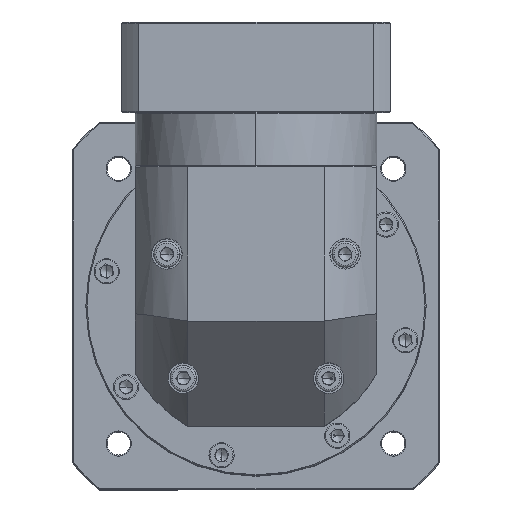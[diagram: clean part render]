
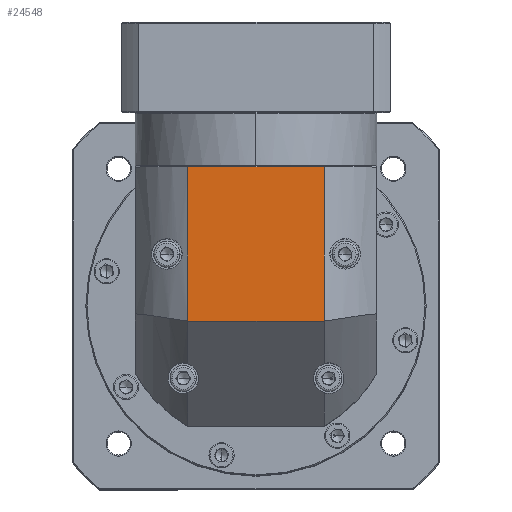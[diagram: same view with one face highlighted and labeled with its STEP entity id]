
A CAD part, top view. The second image highlights one B-rep face of the part: STEP entity #24548.
In plain terms, the highlighted planar face has unit normal (0, 0, 1).
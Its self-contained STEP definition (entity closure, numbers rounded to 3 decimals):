
#3265 = AXIS2_PLACEMENT_3D ( 'NONE', #133017, #111197, #87848 ) ;
#3357 = LINE ( 'NONE', #43667, #17062 ) ;
#4826 = EDGE_CURVE ( 'NONE', #47212, #104685, #10879, .T. ) ;
#10879 = LINE ( 'NONE', #97765, #59427 ) ;
#15515 = DIRECTION ( 'NONE',  ( -1., 0., 0. ) ) ;
#17062 = VECTOR ( 'NONE', #65979, 1000. ) ;
#19959 = EDGE_LOOP ( 'NONE', ( #67979, #118734, #34262, #142218 ) ) ;
#24548 = ADVANCED_FACE ( 'NONE', ( #125354 ), #77700, .F. ) ;
#31800 = DIRECTION ( 'NONE',  ( 1., 0., 0. ) ) ;
#34262 = ORIENTED_EDGE ( 'NONE', *, *, #74322, .F. ) ;
#43667 = CARTESIAN_POINT ( 'NONE',  ( -126.42, 30.954, 31.446 ) ) ;
#44719 = CARTESIAN_POINT ( 'NONE',  ( -61.62, 30.954, 31.446 ) ) ;
#46071 = EDGE_CURVE ( 'NONE', #129414, #47212, #3357, .T. ) ;
#46236 = LINE ( 'NONE', #113539, #110511 ) ;
#47212 = VERTEX_POINT ( 'NONE', #106604 ) ;
#49361 = VERTEX_POINT ( 'NONE', #110107 ) ;
#53177 = VECTOR ( 'NONE', #77198, 1000. ) ;
#59427 = VECTOR ( 'NONE', #31800, 1000. ) ;
#65979 = DIRECTION ( 'NONE',  ( 0., 1., 0. ) ) ;
#67979 = ORIENTED_EDGE ( 'NONE', *, *, #46071, .F. ) ;
#74322 = EDGE_CURVE ( 'NONE', #104685, #49361, #86088, .T. ) ;
#75520 = CARTESIAN_POINT ( 'NONE',  ( -126.42, 80.954, 31.446 ) ) ;
#77198 = DIRECTION ( 'NONE',  ( 0., -1., 0. ) ) ;
#77700 = PLANE ( 'NONE',  #3265 ) ;
#86088 = LINE ( 'NONE', #44719, #53177 ) ;
#87848 = DIRECTION ( 'NONE',  ( 1., 0., 0. ) ) ;
#97765 = CARTESIAN_POINT ( 'NONE',  ( -151.52, 154.354, 31.446 ) ) ;
#103310 = EDGE_CURVE ( 'NONE', #49361, #129414, #46236, .T. ) ;
#104685 = VERTEX_POINT ( 'NONE', #104945 ) ;
#104945 = CARTESIAN_POINT ( 'NONE',  ( -61.62, 154.354, 31.446 ) ) ;
#106604 = CARTESIAN_POINT ( 'NONE',  ( -126.42, 154.354, 31.446 ) ) ;
#110107 = CARTESIAN_POINT ( 'NONE',  ( -61.62, 80.954, 31.446 ) ) ;
#110511 = VECTOR ( 'NONE', #15515, 1000. ) ;
#111197 = DIRECTION ( 'NONE',  ( 0., 0., -1. ) ) ;
#113539 = CARTESIAN_POINT ( 'NONE',  ( -151.52, 80.954, 31.446 ) ) ;
#118734 = ORIENTED_EDGE ( 'NONE', *, *, #103310, .F. ) ;
#125354 = FACE_OUTER_BOUND ( 'NONE', #19959, .T. ) ;
#129414 = VERTEX_POINT ( 'NONE', #75520 ) ;
#133017 = CARTESIAN_POINT ( 'NONE',  ( -94.02, 88.454, 31.446 ) ) ;
#142218 = ORIENTED_EDGE ( 'NONE', *, *, #4826, .F. ) ;
